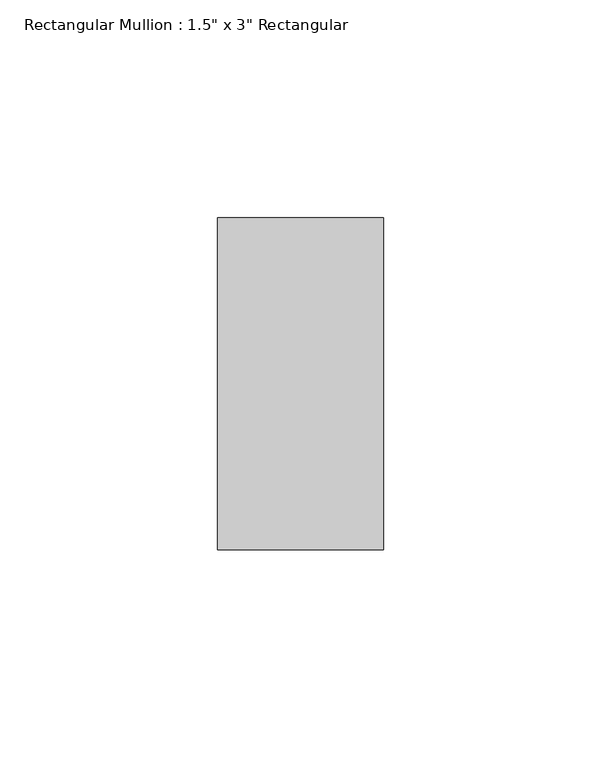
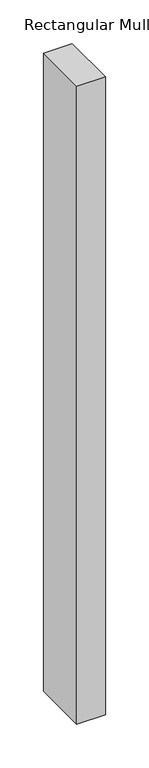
"""IFC4 building model written with IfcOpenShell, lengths in millimetres: member geometry."""

from ifc_helpers import new_model, si_unit, frame, origin, place, context, project, spatial, polyline, outline, extrude, source, transform, mapped, element, save


def member_a99f958b(model_context):
    return source(origin(), model_context, "Body", "SweptSolid", [
        extrude(outline(polyline([(0.0, 38.1), (0.0, -38.1), (-38.1, -38.1), (-38.1, 38.1), (0.0, 38.1)])), frame((0.0, 0.0, -891.8863639), z_axis=(0.0, 0.0, 1.0), x_axis=(1.0, 0.0, 0.0)), (0.0, 0.0, 1.0), 891.8863639),
    ])


if __name__ == "__main__":
    model = new_model("IFC4")
    model_context = context("Model", 3, world=origin())
    ifc_project = project(units=[si_unit("LENGTHUNIT", "METRE", prefix="MILLI")], contexts=[model_context])
    site = spatial("IfcSite", under=ifc_project)
    building = spatial("IfcBuilding", under=site)
    placement = place(None, origin())
    member_shape = member_a99f958b(model_context)
    element("IfcMember", 1, ObjectType="Rectangular Mullion : 1.5\" x 3\" Rectangular", at=placement, inside=building, context=model_context, shape_type="MappedRepresentation", body=[
        mapped(member_shape, transform((0.0, 0.0, 0.0), x_axis=(1.0, 0.0, 0.0), y_axis=(0.0, 1.0, 0.0), z_axis=(0.0, 0.0, 1.0))),
    ])
    save(model, "model.ifc")
